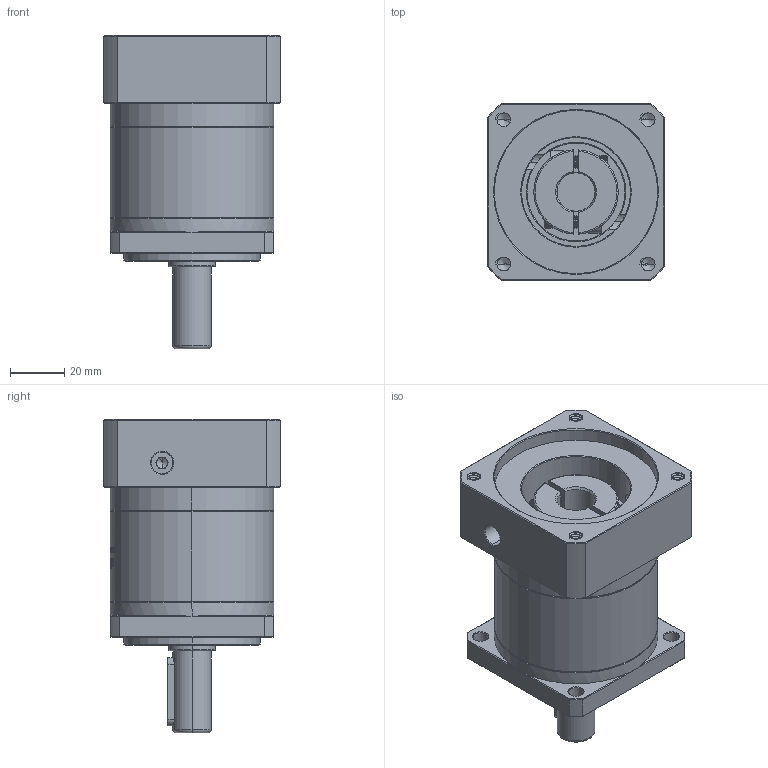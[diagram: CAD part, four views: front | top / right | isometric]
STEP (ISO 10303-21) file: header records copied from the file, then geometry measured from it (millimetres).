
FILE_DESCRIPTION (( 'STEP AP214' ), '1' );
FILE_NAME ('ZF60-D14-L1-14-60-75-M6.STEP', '2022-04-17T11:55:37', ( '' ), ( 'Microsoft' ), 'SwSTEP 2.0', 'SolidWorks 2016', '' );
FILE_SCHEMA (( 'AUTOMOTIVE_DESIGN' ));
Length unit declared in the file: millimetre
Products named in the file (1): ZF60-D14-L1-14-60-75-M6
Bounding box: 65 x 65 x 115 mm (x, y, z)
Volume: 233129.7 mm3; surface area: 47006.3 mm2
Topology: 6 solids, 6 shells, 1665 faces, 4489 edges, 2901 vertices
Faces by surface type: plane 749, cylinder 363, bspline 299, cone 234, torus 20
Entity records: 94553 total; most frequent: CARTESIAN_POINT 38257, ORIENTED_EDGE 8950, DIRECTION 6585, EDGE_CURVE 4475, VERTEX_POINT 2901, VECTOR 2279, LINE 2279, AXIS2_PLACEMENT_3D 2153
